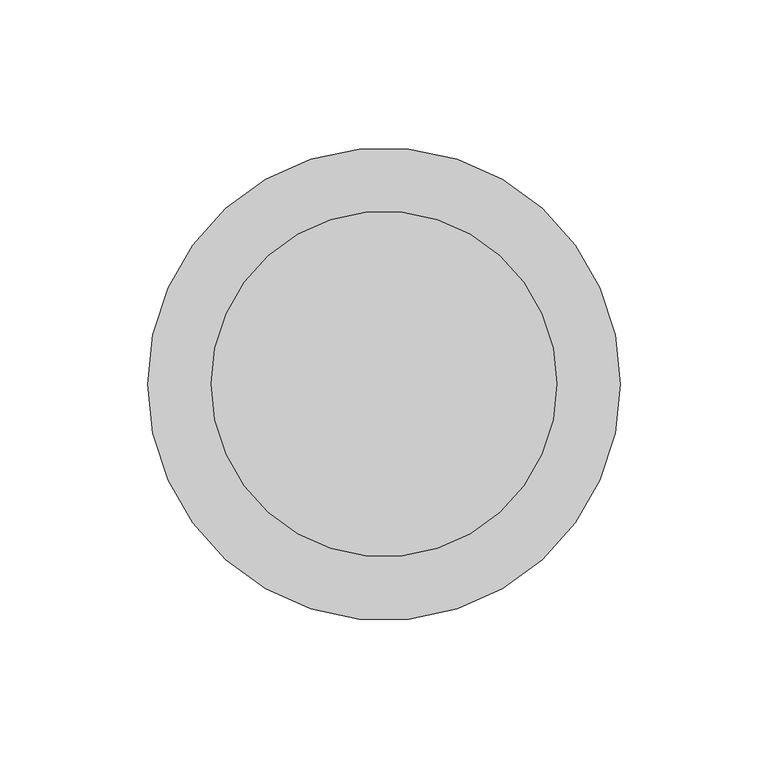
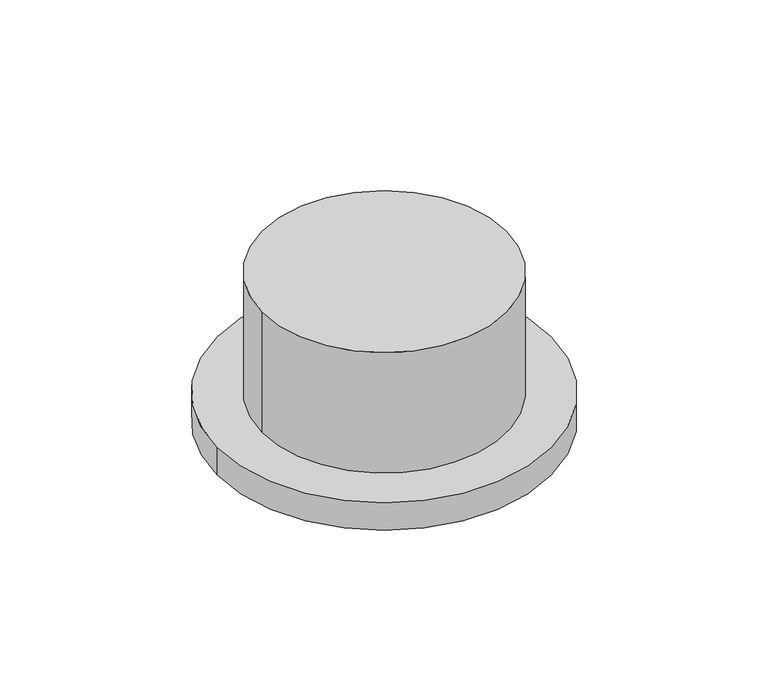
"""IFC4 building model written with IfcOpenShell, lengths in millimetres: air terminal geometry, NLRS_57_AIR_WPB_extraction air valve_M&G : Kwadrant."""

from ifc_helpers import new_model, si_unit, point, frame, origin, origin_with_axes, origin_2d, place, context, project, spatial, circle_curve, trimmed, segment, composite_curve, outline, extrude, source, transform, mapped, element, save


def air_terminal_f5742492(model_context):
    return source(origin(), model_context, "Body", "SweptSolid", [
        extrude(outline(composite_curve([segment(trimmed(circle_curve(origin_2d(), 58.5), [point((-58.5, 0.0))], [point((58.5, 0.0))], False, "CARTESIAN"), True, "CONTINUOUS"), segment(trimmed(circle_curve(origin_2d(), 58.5), [point((58.5, 0.0))], [point((-58.5, 0.0))], False, "CARTESIAN"), True, "CONTINUOUS")], self_intersect=False)), origin_with_axes(), (0.0, 0.0, 1.0), 61.0),
        extrude(outline(composite_curve([segment(trimmed(circle_curve(origin_2d(), 80.0), [point((-80.0, 0.0))], [point((80.0, 0.0))], False, "CARTESIAN"), True, "CONTINUOUS"), segment(trimmed(circle_curve(origin_2d(), 80.0), [point((80.0, 0.0))], [point((-80.0, 0.0))], False, "CARTESIAN"), True, "CONTINUOUS")], self_intersect=False)), frame((0.0, 0.0, -14.0), z_axis=(0.0, 0.0, 1.0), x_axis=(1.0, 0.0, 0.0)), (0.0, 0.0, 1.0), 14.0),
    ])


if __name__ == "__main__":
    model = new_model("IFC4")
    model_context = context("Model", 3, world=origin())
    ifc_project = project(units=[si_unit("LENGTHUNIT", "METRE", prefix="MILLI")], contexts=[model_context])
    site = spatial("IfcSite", under=ifc_project)
    building = spatial("IfcBuilding", under=site)
    placement = place(None, origin())
    air_terminal_shape = air_terminal_f5742492(model_context)
    element("IfcAirTerminal", 1, ObjectType="NLRS_57_AIR_WPB_extraction air valve_M&G : Kwadrant", at=placement, inside=building, context=model_context, shape_type="MappedRepresentation", body=[
        mapped(air_terminal_shape, transform((0.0, 0.0, 0.0), x_axis=(1.0, 0.0, 0.0), y_axis=(0.0, 1.0, 0.0), z_axis=(0.0, 0.0, 1.0))),
    ])
    save(model, "model.ifc")
